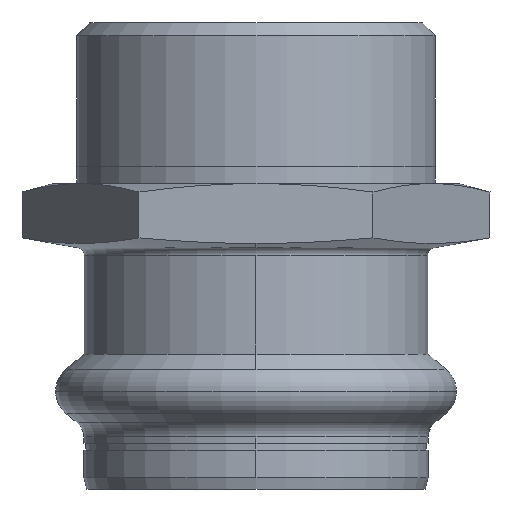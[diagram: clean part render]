
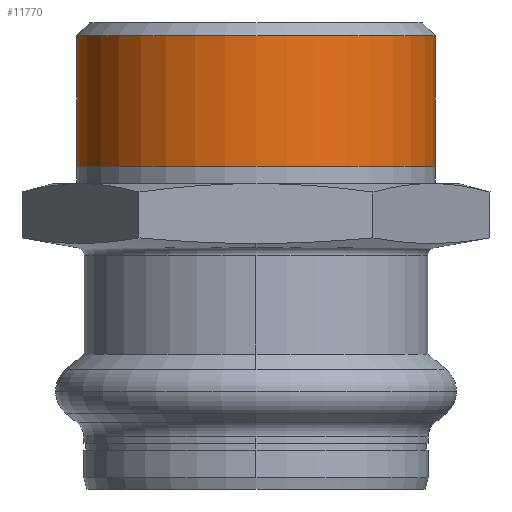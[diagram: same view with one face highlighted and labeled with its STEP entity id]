
A CAD part, front view. The second image highlights one B-rep face of the part: STEP entity #11770.
In plain terms, the highlighted cylindrical face has radius 23.901 mm (diameter 47.803 mm), a partial arc.
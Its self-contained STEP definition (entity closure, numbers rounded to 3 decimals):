
#10690=CARTESIAN_POINT('',(42.374,53.52,8.7));
#10700=DIRECTION('',(0.,0.,1.));
#10710=DIRECTION('',(1.,0.,0.));
#10720=AXIS2_PLACEMENT_3D('',#10690,#10700,#10710);
#10730=CYLINDRICAL_SURFACE('',#10720,23.902);
#11280=CARTESIAN_POINT('',(18.472,53.52,11.));
#11290=VERTEX_POINT('',#11280);
#11320=CARTESIAN_POINT('',(42.374,53.52,11.));
#11330=DIRECTION('',(0.,0.,1.));
#11340=DIRECTION('',(1.,0.,0.));
#11350=AXIS2_PLACEMENT_3D('',#11320,#11330,#11340);
#11360=CIRCLE('',#11350,23.902);
#11370=CARTESIAN_POINT('',(66.275,53.52,11.));
#11380=VERTEX_POINT('',#11370);
#11390=EDGE_CURVE('',#11290,#11380,#11360,.T.);
#11510=CARTESIAN_POINT('',(18.472,53.52,8.7));
#11520=DIRECTION('',(0.,0.,1.));
#11530=VECTOR('',#11520,1.);
#11540=LINE('',#11510,#11530);
#11550=CARTESIAN_POINT('',(18.472,53.52,28.4));
#11560=VERTEX_POINT('',#11550);
#11570=EDGE_CURVE('',#11290,#11560,#11540,.T.);
#11580=ORIENTED_EDGE('',*,*,#11570,.F.);
#11590=CARTESIAN_POINT('',(42.374,53.52,28.4));
#11600=DIRECTION('',(0.,0.,1.));
#11610=DIRECTION('',(1.,0.,0.));
#11620=AXIS2_PLACEMENT_3D('',#11590,#11600,#11610);
#11630=CIRCLE('',#11620,23.902);
#11640=CARTESIAN_POINT('',(66.275,53.52,28.4));
#11650=VERTEX_POINT('',#11640);
#11660=EDGE_CURVE('',#11560,#11650,#11630,.T.);
#11670=ORIENTED_EDGE('',*,*,#11660,.F.);
#11680=CARTESIAN_POINT('',(66.275,53.52,8.7));
#11690=DIRECTION('',(0.,0.,1.));
#11700=VECTOR('',#11690,1.);
#11710=LINE('',#11680,#11700);
#11720=EDGE_CURVE('',#11380,#11650,#11710,.T.);
#11730=ORIENTED_EDGE('',*,*,#11720,.T.);
#11740=ORIENTED_EDGE('',*,*,#11390,.T.);
#11750=EDGE_LOOP('',(#11740,#11730,#11670,#11580));
#11760=FACE_OUTER_BOUND('',#11750,.T.);
#11770=ADVANCED_FACE('1.882008-11_62733',(#11760),#10730,.T.);
